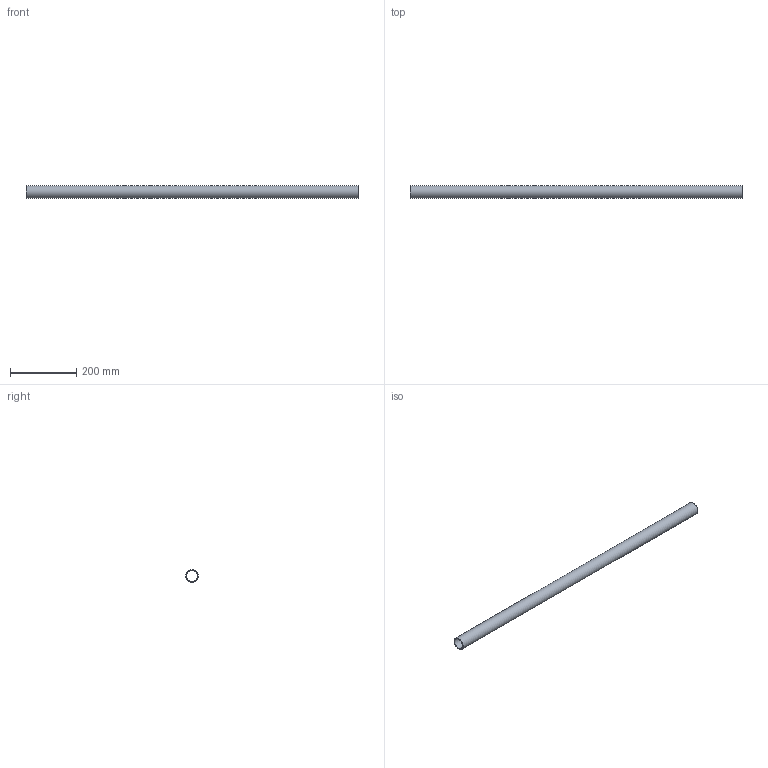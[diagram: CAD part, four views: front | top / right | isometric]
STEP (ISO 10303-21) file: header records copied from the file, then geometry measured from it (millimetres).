
FILE_DESCRIPTION(/* description */ (''),/* implementation_level */ '2;1');
FILE_NAME(/* name */ 'H1 Bent host_developed.step',/* time_stamp */ '2026-10-26T11:43:44-04:00',/* author */ (''),/* organization */ (''),/* preprocessor_version */ 'ST-DEVELOPER v20.2',/* originating_system */ 'Autodesk Translation Framework v15.17.0.0',/* authorisation */ '');
FILE_SCHEMA (('AUTOMOTIVE_DESIGN { 1 0 10303 214 3 1 1 }'));
Length unit declared in the file: inch
Products named in the file (1): 2026-10-26-11-43-43-722
Bounding box: 1001.39 x 38.1 x 38.1 mm (x, y, z)
Volume: 270907 mm3; surface area: 225080.6 mm2
Topology: 1 solids, 1 shells, 4 faces, 407 edges, 800 vertices
Faces by surface type: cylinder 2, plane 2
Full cylindrical faces by diameter (mm): 33.274 x1, 38.1 x1
Entity records: 5167 total; most frequent: CARTESIAN_POINT 3141, STYLED_ITEM 402, TRIMMED_CURVE 401, DIRECTION 368, LINE 350, VECTOR 350, B_SPLINE_CURVE_WITH_KNOTS 53, ORIENTED_EDGE 12
